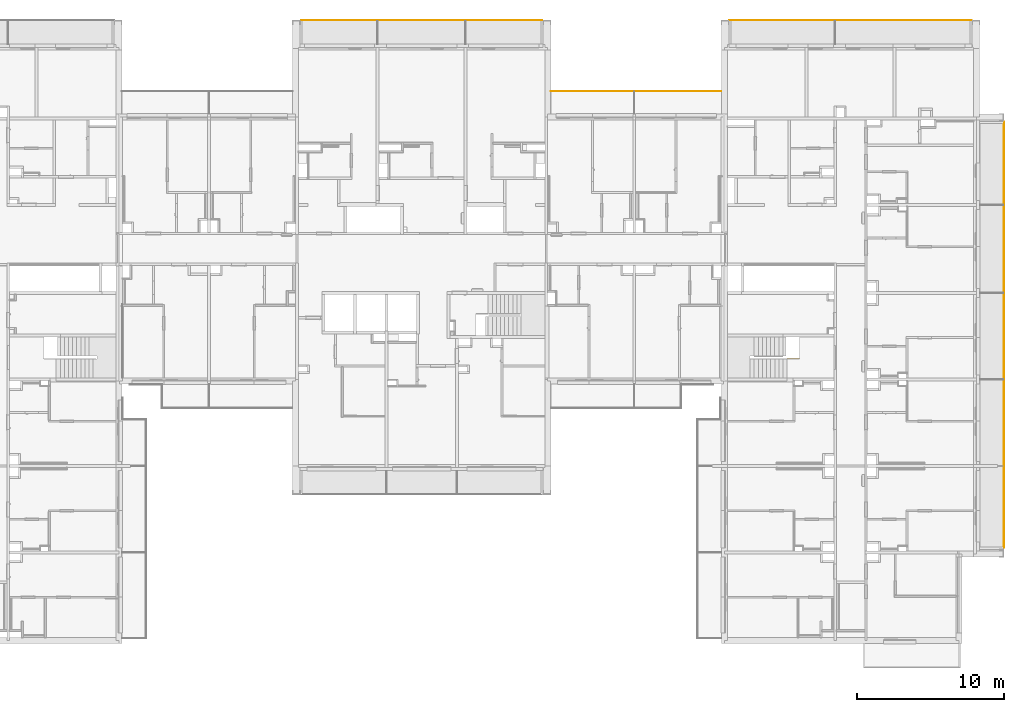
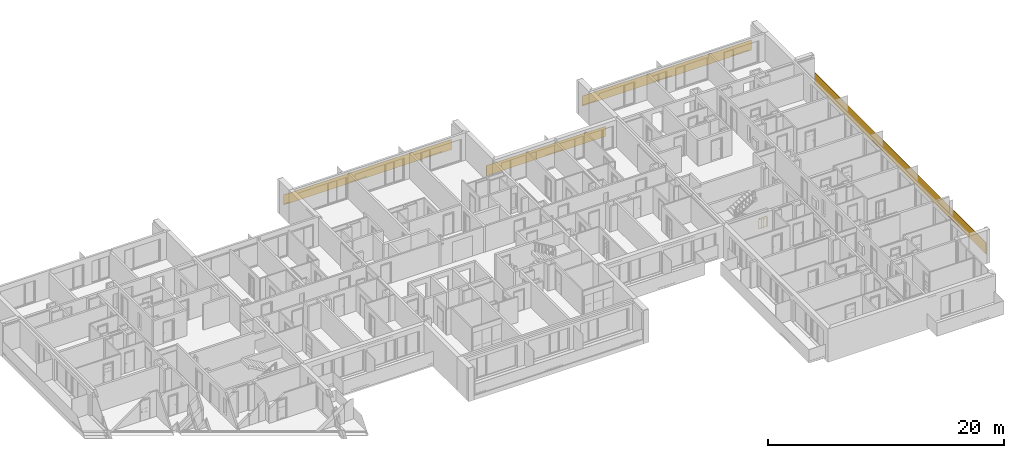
# One storey, part 8 of 67: 5 railings.
"""IFC2X3 building model written with IfcOpenShell, lengths in millimetres."""

from ifc_helpers import new_model, entity, si_unit, converted_unit, derived_unit, money_unit, direction, frame, origin_with_axes, place, context, subcontext, project, spatial, faceted_brep, material, material_list, type_object, element, save


model = new_model("IFC2X3")

# Units and contexts
model_context = context("Model", 3, precision=0.01, world=origin_with_axes(), true_north=direction((0.34421633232, 0.938890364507)))
body_context = subcontext(model_context, "Body", "Model", "MODEL_VIEW")
ifc_project = project(units=[si_unit("LENGTHUNIT", "METRE", prefix="MILLI"), si_unit("AREAUNIT", "SQUARE_METRE"), si_unit("VOLUMEUNIT", "CUBIC_METRE"), converted_unit("PLANEANGLEUNIT", "DEGREE", entity("IfcPlaneAngleMeasure", 0.0174532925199), si_unit("PLANEANGLEUNIT", "RADIAN"), dimensions=[0, 0, 0, 0, 0, 0, 0]), si_unit("SOLIDANGLEUNIT", "STERADIAN"), money_unit("USD"), converted_unit("TIMEUNIT", "Year", entity("IfcTimeMeasure", 31556926.0), si_unit("TIMEUNIT", "SECOND"), dimensions=[0, 0, 1, 0, 0, 0, 0]), si_unit("MASSUNIT", "GRAM", prefix="KILO"), si_unit("THERMODYNAMICTEMPERATUREUNIT", "DEGREE_CELSIUS"), si_unit("LUMINOUSINTENSITYUNIT", "LUMEN"), si_unit("ENERGYUNIT", "JOULE", prefix="MEGA"), derived_unit("THERMALCONDUCTANCEUNIT", [(si_unit("POWERUNIT", "WATT"), 1), (si_unit("LENGTHUNIT", "METRE"), -1), (si_unit("THERMODYNAMICTEMPERATUREUNIT", "KELVIN"), -1)]), derived_unit("SPECIFICHEATCAPACITYUNIT", [(si_unit("ENERGYUNIT", "JOULE"), 1), (si_unit("MASSUNIT", "GRAM", prefix="KILO"), -1), (si_unit("THERMODYNAMICTEMPERATUREUNIT", "KELVIN"), -1)]), derived_unit("MASSDENSITYUNIT", [(si_unit("MASSUNIT", "GRAM", prefix="KILO"), 1), (si_unit("VOLUMEUNIT", "CUBIC_METRE"), -1)])], contexts=[model_context])

# Site, building, storey
site_placement = place(None, origin_with_axes())
site = spatial("IfcSite", under=ifc_project, at=site_placement, Name="USTRONIE MORSKIE", CompositionType="ELEMENT")
building_placement = place(site_placement, origin_with_axes())
building = spatial("IfcBuilding", under=site, at=building_placement, Name="Budynek", CompositionType="ELEMENT")
storey_placement = place(building_placement, frame((0.0, 0.0, 4000.0), z_axis=(0.0, 0.0, 1.0), x_axis=(1.0, 0.0, 0.0)))
storey = spatial("IfcBuildingStorey", under=building, at=storey_placement, Name="PIĘTRO 1", CompositionType="ELEMENT", Elevation=4000.0)

# Railings
ifc_material_1 = material(Name="Szkło struktualne")
ifc_material_2 = material(Name="Profile aluminiowe")
ifc_material_list_1 = material_list([ifc_material_1, ifc_material_2])
railing_type = type_object("IfcRailingType", Name="Typ balustrady", PredefinedType="NOTDEFINED")
railing_1_placement = place(storey_placement, frame((425794.47855, 744801.199036, -30.0), z_axis=(0.0, 0.0, 1.0), x_axis=(1.0, 0.0, 0.0)))
element("IfcRailing", 1, at=railing_1_placement, inside=storey, type_object=railing_type, material=ifc_material_list_1, Name="BL1", PredefinedType="NOTDEFINED", context=body_context, shape_type="Brep", body=[
    faceted_brep([(1733.44236935, -29370.0, -100.0), (1733.44236935, -320.0, -100.0), (1733.44236935, -320.0, 1100.0), (1733.44236935, -29370.0, 1100.0), (1713.44236935, -320.0, -100.0), (1713.44236935, -29370.0, -100.0), (1713.44236935, -320.0, 1100.0), (1713.44236935, -29370.0, 1100.0)], [[[0, 1, 2, 3]], [[4, 1, 0, 5]], [[6, 2, 1, 4]], [[3, 2, 6, 7]], [[0, 3, 7, 5]], [[6, 4, 5, 7]]]),
    faceted_brep([(1708.44236935, -29370.0, -5.0), (1708.44236935, -320.0, -5.0), (1708.44236935, -320.0, -105.0), (1708.44236935, -29370.0, -105.0), (1713.44236935, -29370.0, -5.0), (1713.44236935, -320.0, -5.0), (1713.44236935, -320.0, -100.0), (1733.44236935, -320.0, -100.0), (1733.44236935, -320.0, -5.0), (1738.44236935, -320.0, -5.0), (1738.44236935, -320.0, -105.0), (1738.44236935, -29370.0, -105.0), (1738.44236935, -29370.0, -5.0), (1733.44236935, -29370.0, -5.0), (1733.44236935, -29370.0, -100.0), (1713.44236935, -29370.0, -100.0)], [[[0, 1, 2, 3]], [[1, 0, 4, 5]], [[6, 7, 8, 9, 10, 2, 1, 5]], [[10, 11, 3, 2]], [[11, 12, 13, 14, 15, 4, 0, 3]], [[15, 6, 5, 4]], [[7, 6, 15, 14]], [[8, 7, 14, 13]], [[9, 8, 13, 12]], [[11, 10, 9, 12]]]),
])
railing_2_placement = place(storey_placement, frame((379667.92092, 751396.04714, 30.0), z_axis=(0.0, 0.0, 1.0), x_axis=(1.0, 0.0, 0.0)))
element("IfcRailing", 2, at=railing_2_placement, inside=storey, type_object=railing_type, material=ifc_material_list_1, Name="BL1", PredefinedType="NOTDEFINED", context=body_context, shape_type="Brep", body=[
    faceted_brep([(16364.996526, 10.1518957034, -100.0), (-65.0030789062, 9.99939794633, -100.0), (-65.0030789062, 9.99939794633, 950.0), (16364.996526, 10.1518957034, 950.0), (-65.0028932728, -10.0006020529, -100.0), (16364.9967116, -9.84810429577, -100.0), (-65.0028932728, -10.0006020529, 950.0), (16364.9967116, -9.84810429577, 950.0)], [[[0, 1, 2, 3]], [[4, 1, 0, 5]], [[6, 2, 1, 4]], [[3, 2, 6, 7]], [[0, 3, 7, 5]], [[6, 4, 5, 7]]]),
    faceted_brep([(16364.996758, -14.8481042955, -5.0), (-65.0028468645, -15.0006020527, -5.0), (-65.0028468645, -15.0006020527, -105.0), (16364.996758, -14.8481042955, -105.0), (16364.9967116, -9.84810429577, -5.0), (-65.0028932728, -10.000602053, -5.0), (-65.0028932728, -10.000602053, -100.0), (-65.0030789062, 9.99939794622, -100.0), (-65.0030789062, 9.99939794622, -5.0), (-65.0031253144, 14.999397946, -5.0), (-65.0031253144, 14.999397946, -105.0), (16364.9964795, 15.1518957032, -105.0), (16364.9964795, 15.1518957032, -5.0), (16364.996526, 10.1518957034, -5.0), (16364.996526, 10.1518957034, -100.0), (16364.9967116, -9.84810429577, -100.0)], [[[0, 1, 2, 3]], [[1, 0, 4, 5]], [[6, 7, 8, 9, 10, 2, 1, 5]], [[10, 11, 3, 2]], [[11, 12, 13, 14, 15, 4, 0, 3]], [[15, 6, 5, 4]], [[7, 6, 15, 14]], [[8, 7, 14, 13]], [[9, 8, 13, 12]], [[11, 10, 9, 12]]]),
])
railing_3_placement = place(storey_placement, frame((409067.920919, 751396.199036, 30.0), z_axis=(0.0, 0.0, 1.0), x_axis=(1.0, 0.0, 0.0)))
element("IfcRailing", 3, at=railing_3_placement, inside=storey, type_object=railing_type, material=ifc_material_list_1, Name="BL1", PredefinedType="NOTDEFINED", context=body_context, shape_type="Brep", body=[
    faceted_brep([(16280.0, 9.99999999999, -100.0), (-280.0, 9.99999999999, -100.0), (-280.0, 9.99999999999, 950.0), (16280.0, 9.99999999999, 950.0), (-280.0, -9.99999999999, -100.0), (16280.0, -9.99999999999, -100.0), (-280.0, -9.99999999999, 950.0), (16280.0, -9.99999999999, 950.0)], [[[0, 1, 2, 3]], [[4, 1, 0, 5]], [[6, 2, 1, 4]], [[3, 2, 6, 7]], [[0, 3, 7, 5]], [[6, 4, 5, 7]]]),
    faceted_brep([(16280.0, -15.0, -5.0), (-280.0, -15.0, -5.0), (-280.0, -15.0, -105.0), (16280.0, -15.0, -105.0), (16280.0, -9.99999999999, -5.0), (-280.0, -9.99999999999, -5.0), (-280.0, -9.99999999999, -100.0), (-280.0, 9.99999999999, -100.0), (-280.0, 9.99999999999, -5.0), (-280.0, 15.0, -5.0), (-280.0, 15.0, -105.0), (16280.0, 15.0, -105.0), (16280.0, 15.0, -5.0), (16280.0, 9.99999999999, -5.0), (16280.0, 9.99999999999, -100.0), (16280.0, -9.99999999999, -100.0)], [[[0, 1, 2, 3]], [[1, 0, 4, 5]], [[6, 7, 8, 9, 10, 2, 1, 5]], [[10, 11, 3, 2]], [[11, 12, 13, 14, 15, 4, 0, 3]], [[15, 6, 5, 4]], [[7, 6, 15, 14]], [[8, 7, 14, 13]], [[9, 8, 13, 12]], [[11, 10, 9, 12]]]),
])
railing_4_placement = place(storey_placement, frame((396617.920919, 746801.194135, 30.0), z_axis=(0.0, 0.0, 1.0), x_axis=(1.0, 0.0, 0.0)))
element("IfcRailing", 4, at=railing_4_placement, inside=storey, type_object=railing_type, material=ifc_material_list_1, Name="BL1", PredefinedType="NOTDEFINED", context=body_context, shape_type="Brep", body=[
    faceted_brep([(11650.0, -240.0, -100.0), (0.0, -240.0, -100.0), (0.0, -240.0, 950.0), (11650.0, -240.0, 950.0), (0.0, -260.0, -100.0), (11650.0, -260.0, -100.0), (0.0, -260.0, 950.0), (11650.0, -260.0, 950.0)], [[[0, 1, 2, 3]], [[4, 1, 0, 5]], [[6, 2, 1, 4]], [[3, 2, 6, 7]], [[0, 3, 7, 5]], [[6, 4, 5, 7]]]),
    faceted_brep([(11650.0, -265.0, -5.0), (0.0, -265.0, -5.0), (0.0, -265.0, -105.0), (11650.0, -265.0, -105.0), (11650.0, -260.0, -5.0), (0.0, -260.0, -5.0), (0.0, -260.0, -100.0), (0.0, -240.0, -100.0), (0.0, -240.0, -5.0), (0.0, -235.0, -5.0), (0.0, -235.0, -105.0), (11650.0, -235.0, -105.0), (11650.0, -235.0, -5.0), (11650.0, -240.0, -5.0), (11650.0, -240.0, -100.0), (11650.0, -260.0, -100.0)], [[[0, 1, 2, 3]], [[1, 0, 4, 5]], [[6, 7, 8, 9, 10, 2, 1, 5]], [[10, 11, 3, 2]], [[11, 12, 13, 14, 15, 4, 0, 3]], [[15, 6, 5, 4]], [[7, 6, 15, 14]], [[8, 7, 14, 13]], [[9, 8, 13, 12]], [[11, 10, 9, 12]]]),
])
ifc_material_3 = material(Name="Stal konstrukcyjna")
ifc_material_4 = material(Name="Stal nierdzewna")
ifc_material_list_2 = material_list([ifc_material_3, ifc_material_3, ifc_material_4, ifc_material_4, ifc_material_4, ifc_material_3, ifc_material_3, ifc_material_3, ifc_material_3, ifc_material_3, ifc_material_3])
railing_5_placement = place(storey_placement, frame((413577.920924, 728301.198948, 0.0), z_axis=(0.0, 0.0, 1.0), x_axis=(1.0, 0.0, 0.0)))
element("IfcRailing", 5, at=railing_5_placement, inside=storey, type_object=railing_type, material=ifc_material_list_2, Name="BL1", PredefinedType="NOTDEFINED", context=body_context, shape_type="Brep", body=[
    faceted_brep([(-9.99999999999, 45.0, -150.0), (-9.99999999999, 25.0, -150.0), (-9.99999999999, 25.0, 750.0), (-9.99999999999, 45.0, 750.0), (9.99999999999, 45.0, -150.0), (9.99999999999, 25.0, -150.0), (-5.0, 40.0, -150.0), (-5.0, 30.0, -150.0), (5.0, 30.0, -150.0), (5.0, 40.0, -150.0), (9.99999999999, 25.0, 750.0), (9.99999999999, 45.0, 750.0), (-5.0, 40.0, 750.0), (5.0, 40.0, 750.0), (5.0, 30.0, 750.0), (-5.0, 30.0, 750.0)], [[[0, 1, 2, 3]], [[0, 4, 5, 1], [6, 7, 8, 9]], [[1, 5, 10, 2]], [[3, 2, 10, 11], [12, 13, 14, 15]], [[4, 0, 3, 11]], [[5, 4, 11, 10]], [[7, 6, 12, 15]], [[8, 7, 15, 14]], [[9, 8, 14, 13]], [[6, 9, 13, 12]]]),
    faceted_brep([(-848.260874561, 45.0, -150.0), (-848.260874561, 25.0, -150.0), (-848.260874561, 25.0, 750.0), (-848.260874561, 45.0, 750.0), (-828.260874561, 45.0, -150.0), (-828.260874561, 25.0, -150.0), (-843.260874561, 40.0, -150.0), (-843.260874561, 30.0, -150.0), (-833.260874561, 30.0, -150.0), (-833.260874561, 40.0, -150.0), (-828.260874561, 25.0, 750.0), (-828.260874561, 45.0, 750.0), (-843.260874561, 40.0, 750.0), (-833.260874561, 40.0, 750.0), (-833.260874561, 30.0, 750.0), (-843.260874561, 30.0, 750.0)], [[[0, 1, 2, 3]], [[0, 4, 5, 1], [6, 7, 8, 9]], [[1, 5, 10, 2]], [[3, 2, 10, 11], [12, 13, 14, 15]], [[4, 0, 3, 11]], [[5, 4, 11, 10]], [[7, 6, 12, 15]], [[8, 7, 15, 14]], [[9, 8, 14, 13]], [[6, 9, 13, 12]]]),
    faceted_brep([(0.0, 59.9999999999, 900.0), (0.0, 59.9999999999, 875.0), (-838.260874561, 59.9999999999, 875.0), (-838.260874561, 59.9999999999, 900.0), (0.0, 9.99999999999, 900.0), (0.0, 9.99999999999, 875.0), (0.0, 25.0, 875.0), (0.0, 25.0, 880.0), (0.0, 45.0, 880.0), (0.0, 45.0, 875.0), (-838.260874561, 45.0, 875.0), (-838.260874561, 45.0, 880.0), (-838.260874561, 25.0, 880.0), (-838.260874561, 25.0, 875.0), (-838.260874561, 9.99999999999, 875.0), (-838.260874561, 9.99999999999, 900.0)], [[[0, 1, 2, 3]], [[0, 4, 5, 6, 7, 8, 9, 1]], [[1, 9, 10, 2]], [[3, 2, 10, 11, 12, 13, 14, 15]], [[4, 0, 3, 15]], [[5, 4, 15, 14]], [[6, 5, 14, 13]], [[7, 6, 13, 12]], [[8, 7, 12, 11]], [[9, 8, 11, 10]]]),
    faceted_brep([(0.0, 45.0, 875.0), (0.0, 25.0, 875.0), (-838.260874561, 25.0, 875.0), (-838.260874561, 45.0, 875.0), (0.0, 45.0, 880.0), (0.0, 25.0, 880.0), (-838.260874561, 25.0, 880.0), (-838.260874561, 45.0, 880.0)], [[[0, 1, 2, 3]], [[0, 4, 5, 1]], [[1, 5, 6, 2]], [[3, 2, 6, 7]], [[4, 0, 3, 7]], [[5, 4, 7, 6]]]),
    faceted_brep([(-52.5, 45.0, 755.0), (-52.5, 25.0, 755.0), (-52.5, 25.0, 875.0), (-52.5, 45.0, 875.0), (-47.5, 45.0, 755.0), (-47.5, 25.0, 755.0), (-47.5, 25.0, 875.0), (-47.5, 45.0, 875.0)], [[[0, 1, 2, 3]], [[0, 4, 5, 1]], [[1, 5, 6, 2]], [[3, 2, 6, 7]], [[4, 0, 3, 7]], [[5, 4, 7, 6]]]),
    faceted_brep([(-790.760874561, 45.0, 755.0), (-790.760874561, 25.0, 755.0), (-790.760874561, 25.0, 875.0), (-790.760874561, 45.0, 875.0), (-785.760874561, 45.0, 755.0), (-785.760874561, 25.0, 755.0), (-785.760874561, 25.0, 875.0), (-785.760874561, 45.0, 875.0)], [[[0, 1, 2, 3]], [[0, 4, 5, 1]], [[1, 5, 6, 2]], [[3, 2, 6, 7]], [[4, 0, 3, 7]], [[5, 4, 7, 6]]]),
    faceted_brep([(0.0, 54.9999999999, 750.0), (0.0, 54.9999999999, 745.0), (-838.260874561, 54.9999999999, 745.0), (-838.260874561, 54.9999999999, 750.0), (0.0, 15.0, 750.0), (0.0, 15.0, 745.0), (-838.260874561, 15.0, 745.0), (-838.260874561, 15.0, 750.0)], [[[0, 1, 2, 3]], [[0, 4, 5, 1]], [[1, 5, 6, 2]], [[3, 2, 6, 7]], [[4, 0, 3, 7]], [[5, 4, 7, 6]]]),
    faceted_brep([(0.0, 54.9999999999, -157.5), (0.0, 54.9999999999, -162.5), (-838.260874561, 54.9999999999, -162.5), (-838.260874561, 54.9999999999, -157.5), (0.0, 15.0, -157.5), (0.0, 15.0, -162.5), (-838.260874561, 15.0, -162.5), (-838.260874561, 15.0, -157.5)], [[[0, 1, 2, 3]], [[0, 4, 5, 1]], [[1, 5, 6, 2]], [[3, 2, 6, 7]], [[4, 0, 3, 7]], [[5, 4, 7, 6]]]),
    faceted_brep([(-122.251553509, 47.5, -155.0), (-122.251553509, 22.4999999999, -155.0), (-122.251553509, 22.4999999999, 745.0), (-122.251553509, 47.5, 745.0), (-117.251553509, 47.5, -155.0), (-117.251553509, 22.4999999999, -155.0), (-117.251553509, 22.4999999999, 745.0), (-117.251553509, 47.5, 745.0)], [[[0, 1, 2, 3]], [[0, 4, 5, 1]], [[1, 5, 6, 2]], [[3, 2, 6, 7]], [[4, 0, 3, 7]], [[5, 4, 7, 6]]]),
    faceted_brep([(-242.003107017, 47.5, -155.0), (-242.003107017, 22.4999999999, -155.0), (-242.003107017, 22.4999999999, 745.0), (-242.003107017, 47.5, 745.0), (-237.003107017, 47.5, -155.0), (-237.003107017, 22.4999999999, -155.0), (-237.003107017, 22.4999999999, 745.0), (-237.003107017, 47.5, 745.0)], [[[0, 1, 2, 3]], [[0, 4, 5, 1]], [[1, 5, 6, 2]], [[3, 2, 6, 7]], [[4, 0, 3, 7]], [[5, 4, 7, 6]]]),
    faceted_brep([(-361.754660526, 47.5, -155.0), (-361.754660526, 22.4999999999, -155.0), (-361.754660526, 22.4999999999, 745.0), (-361.754660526, 47.5, 745.0), (-356.754660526, 47.5, -155.0), (-356.754660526, 22.4999999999, -155.0), (-356.754660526, 22.4999999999, 745.0), (-356.754660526, 47.5, 745.0)], [[[0, 1, 2, 3]], [[0, 4, 5, 1]], [[1, 5, 6, 2]], [[3, 2, 6, 7]], [[4, 0, 3, 7]], [[5, 4, 7, 6]]]),
    faceted_brep([(-481.506214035, 47.5, -155.0), (-481.506214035, 22.4999999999, -155.0), (-481.506214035, 22.4999999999, 745.0), (-481.506214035, 47.5, 745.0), (-476.506214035, 47.5, -155.0), (-476.506214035, 22.4999999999, -155.0), (-476.506214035, 22.4999999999, 745.0), (-476.506214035, 47.5, 745.0)], [[[0, 1, 2, 3]], [[0, 4, 5, 1]], [[1, 5, 6, 2]], [[3, 2, 6, 7]], [[4, 0, 3, 7]], [[5, 4, 7, 6]]]),
    faceted_brep([(-601.257767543, 47.5, -155.0), (-601.257767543, 22.4999999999, -155.0), (-601.257767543, 22.4999999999, 745.0), (-601.257767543, 47.5, 745.0), (-596.257767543, 47.5, -155.0), (-596.257767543, 22.4999999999, -155.0), (-596.257767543, 22.4999999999, 745.0), (-596.257767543, 47.5, 745.0)], [[[0, 1, 2, 3]], [[0, 4, 5, 1]], [[1, 5, 6, 2]], [[3, 2, 6, 7]], [[4, 0, 3, 7]], [[5, 4, 7, 6]]]),
    faceted_brep([(-721.009321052, 47.5, -155.0), (-721.009321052, 22.4999999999, -155.0), (-721.009321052, 22.4999999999, 745.0), (-721.009321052, 47.5, 745.0), (-716.009321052, 47.5, -155.0), (-716.009321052, 22.4999999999, -155.0), (-716.009321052, 22.4999999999, 745.0), (-716.009321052, 47.5, 745.0)], [[[0, 1, 2, 3]], [[0, 4, 5, 1]], [[1, 5, 6, 2]], [[3, 2, 6, 7]], [[4, 0, 3, 7]], [[5, 4, 7, 6]]]),
])

save(model, "model.ifc")
